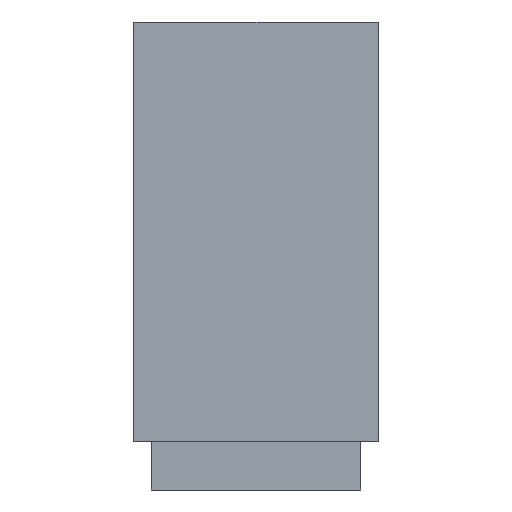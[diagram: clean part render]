
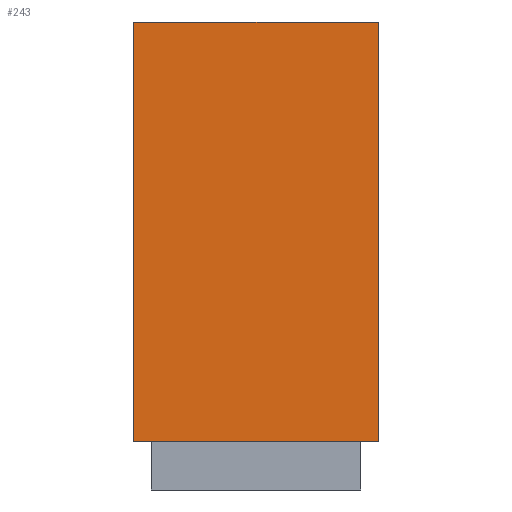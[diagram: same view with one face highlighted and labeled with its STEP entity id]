
A CAD part, front view. The second image highlights one B-rep face of the part: STEP entity #243.
In plain terms, the highlighted planar face has unit normal (0, -1, 0).
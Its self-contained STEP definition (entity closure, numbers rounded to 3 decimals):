
#243=ADVANCED_FACE('',(#378),#1947,.T.);
#378=FACE_OUTER_BOUND('',#513,.T.);
#513=EDGE_LOOP('',(#763,#764,#765,#766));
#763=ORIENTED_EDGE('',*,*,#1275,.T.);
#764=ORIENTED_EDGE('',*,*,#1269,.T.);
#765=ORIENTED_EDGE('',*,*,#1276,.F.);
#766=ORIENTED_EDGE('',*,*,#1273,.F.);
#1269=EDGE_CURVE('',#1761,#1762,#1591,.T.);
#1273=EDGE_CURVE('',#1767,#1765,#1595,.T.);
#1275=EDGE_CURVE('',#1767,#1761,#1597,.T.);
#1276=EDGE_CURVE('',#1765,#1762,#1598,.T.);
#1591=B_SPLINE_CURVE_WITH_KNOTS('',1,(#2771,#2772),.UNSPECIFIED.,.F.,.F.,
(2,2),(0.,600.),.UNSPECIFIED.);
#1595=B_SPLINE_CURVE_WITH_KNOTS('',1,(#2779,#2780),.UNSPECIFIED.,.F.,.F.,
(2,2),(0.,600.),.UNSPECIFIED.);
#1597=B_SPLINE_CURVE_WITH_KNOTS('',1,(#2783,#2784),.UNSPECIFIED.,.F.,.F.,
(2,2),(350.,700.),.UNSPECIFIED.);
#1598=B_SPLINE_CURVE_WITH_KNOTS('',1,(#2785,#2786,#2787),.UNSPECIFIED.,
 .F.,.F.,(2,1,2),(350.,525.,700.),.UNSPECIFIED.);
#1761=VERTEX_POINT('',#2763);
#1762=VERTEX_POINT('',#2764);
#1765=VERTEX_POINT('',#2767);
#1767=VERTEX_POINT('',#2769);
#1947=PLANE('',#2146);
#2146=AXIS2_PLACEMENT_3D('',#2762,#2285,$);
#2285=DIRECTION('',(0.,-1.,0.));
#2762=CARTESIAN_POINT('',(0.,4.,0.));
#2763=CARTESIAN_POINT('',(350.,4.,0.));
#2764=CARTESIAN_POINT('',(350.,4.,600.));
#2767=CARTESIAN_POINT('',(0.,4.,600.));
#2769=CARTESIAN_POINT('',(0.,4.,0.));
#2771=CARTESIAN_POINT('',(350.,4.,0.));
#2772=CARTESIAN_POINT('',(350.,4.,600.));
#2779=CARTESIAN_POINT('',(0.,4.,0.));
#2780=CARTESIAN_POINT('',(0.,4.,600.));
#2783=CARTESIAN_POINT('',(0.,4.,0.));
#2784=CARTESIAN_POINT('',(350.,4.,0.));
#2785=CARTESIAN_POINT('',(0.,4.,600.));
#2786=CARTESIAN_POINT('',(175.,4.,600.));
#2787=CARTESIAN_POINT('',(350.,4.,600.));
